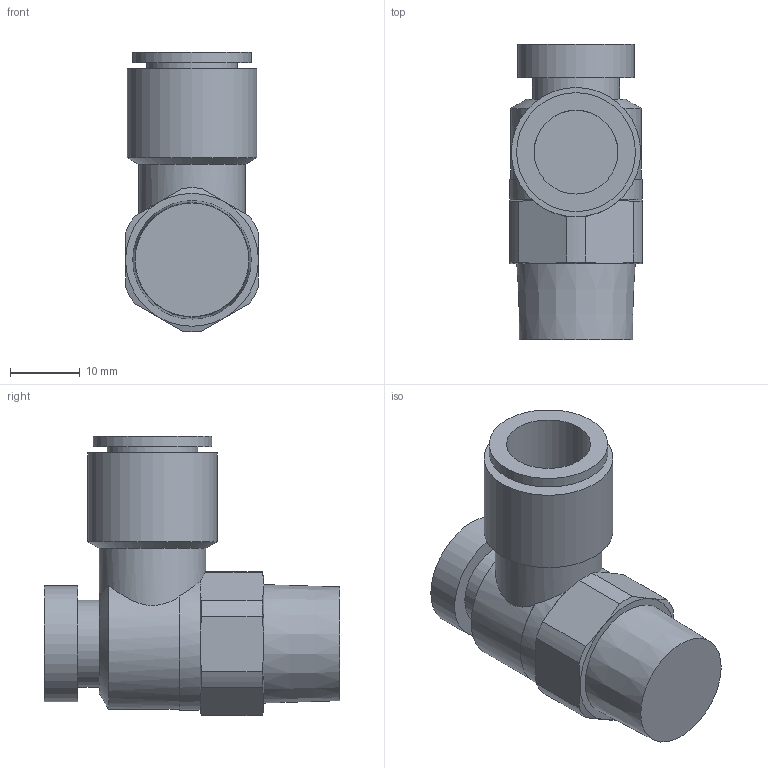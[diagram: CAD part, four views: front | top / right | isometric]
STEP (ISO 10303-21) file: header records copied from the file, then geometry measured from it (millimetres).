
FILE_DESCRIPTION(/* description */ ('STEP AP214'),/* implementation_level */ '2;1');
FILE_NAME(/* name */ 'AS3201F-03-12SA',/* time_stamp */ '2024-10-24T14:11:22+02:00',/* author */ ('License CC BY-ND 4.0'),/* organization */ ('CADENAS'),/* preprocessor_version */ 'ST-DEVELOPER v19.3',/* originating_system */ 'PARTsolutions',/* authorisation */ ' ');
FILE_SCHEMA (('AUTOMOTIVE_DESIGN {1 0 10303 214 3 1 1}'));
Length unit declared in the file: millimetre
Products named in the file (1): AS3201F-03-12SA
Bounding box: 19 x 42.3 x 39.99 mm (x, y, z)
Volume: 13582.1 mm3; surface area: 5223.9 mm2
Topology: 1 solids, 1 shells, 47 faces, 102 edges, 63 vertices
Faces by surface type: cone 16, plane 16, cylinder 15
Full cylindrical faces by diameter (mm): 12 x1, 12.45 x1, 12.94 x1, 15.2 x1, 16.6 x1, 17 x1, 18.5 x1
Entity records: 1305 total; most frequent: CARTESIAN_POINT 316, DIRECTION 200, ORIENTED_EDGE 184, AXIS2_PLACEMENT_3D 93, EDGE_CURVE 92, VERTEX_POINT 62, EDGE_LOOP 62, FACE_BOUND 62
